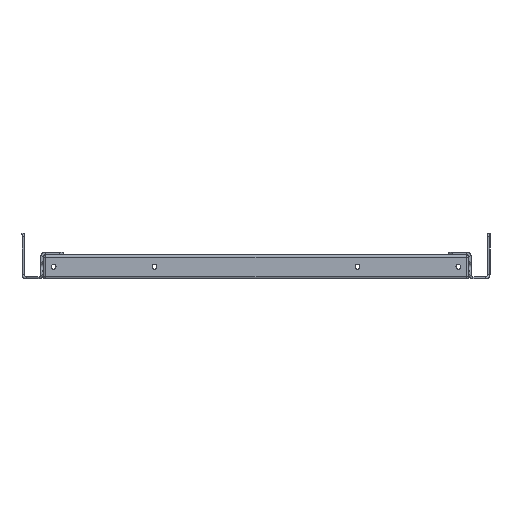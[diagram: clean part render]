
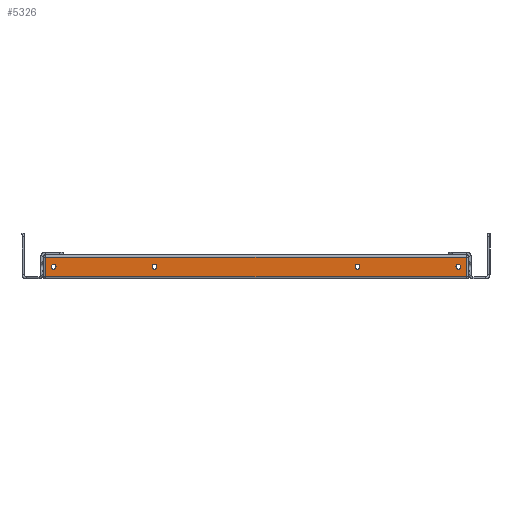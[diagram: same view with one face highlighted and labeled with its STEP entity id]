
A CAD part, left-side view. The second image highlights one B-rep face of the part: STEP entity #5326.
In plain terms, the highlighted planar face has unit normal (-1, 0, 0).
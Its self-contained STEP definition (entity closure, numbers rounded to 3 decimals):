
#32 = CARTESIAN_POINT ( 'NONE',  ( -325., 83.5, 12. ) ) ;
#388 = ORIENTED_EDGE ( 'NONE', *, *, #7493, .T. ) ;
#503 = CARTESIAN_POINT ( 'NONE',  ( -325., -83.5, 12. ) ) ;
#545 = VECTOR ( 'NONE', #5310, 1000. ) ;
#549 = CARTESIAN_POINT ( 'NONE',  ( -325., -173., 2. ) ) ;
#1082 = EDGE_CURVE ( 'NONE', #8710, #4392, #7281, .T. ) ;
#1179 = EDGE_CURVE ( 'NONE', #12559, #9796, #11524, .T. ) ;
#1225 = EDGE_LOOP ( 'NONE', ( #5460, #2819 ) ) ;
#1283 = CIRCLE ( 'NONE', #12520, 2. ) ;
#1313 = EDGE_CURVE ( 'NONE', #6440, #5962, #1283, .T. ) ;
#1610 = CARTESIAN_POINT ( 'NONE',  ( -325., -83.5, 10. ) ) ;
#1930 = ORIENTED_EDGE ( 'NONE', *, *, #10465, .F. ) ;
#1946 = AXIS2_PLACEMENT_3D ( 'NONE', #3062, #10817, #9847 ) ;
#2112 = AXIS2_PLACEMENT_3D ( 'NONE', #9159, #11129, #11215 ) ;
#2184 = CARTESIAN_POINT ( 'NONE',  ( -325., -83.5, 8. ) ) ;
#2196 = DIRECTION ( 'NONE',  ( 0., 0., 1. ) ) ;
#2254 = FACE_OUTER_BOUND ( 'NONE', #3224, .T. ) ;
#2264 = CARTESIAN_POINT ( 'NONE',  ( -325., 166.5, 12. ) ) ;
#2304 = EDGE_CURVE ( 'NONE', #4169, #5003, #4020, .T. ) ;
#2417 = FACE_BOUND ( 'NONE', #9673, .T. ) ;
#2515 = CIRCLE ( 'NONE', #1946, 2. ) ;
#2563 = PLANE ( 'NONE',  #5521 ) ;
#2819 = ORIENTED_EDGE ( 'NONE', *, *, #3282, .T. ) ;
#2844 = AXIS2_PLACEMENT_3D ( 'NONE', #9122, #12002, #6165 ) ;
#2892 = DIRECTION ( 'NONE',  ( 0., 0., 1. ) ) ;
#3062 = CARTESIAN_POINT ( 'NONE',  ( -325., 83.5, 10. ) ) ;
#3224 = EDGE_LOOP ( 'NONE', ( #10757, #388, #7754, #11029 ) ) ;
#3282 = EDGE_CURVE ( 'NONE', #4392, #8710, #7827, .T. ) ;
#3372 = DIRECTION ( 'NONE',  ( 1., 0., 0. ) ) ;
#3506 = DIRECTION ( 'NONE',  ( 0., 0., -1. ) ) ;
#3715 = DIRECTION ( 'NONE',  ( 0., 0., -1. ) ) ;
#4020 = CIRCLE ( 'NONE', #7459, 2. ) ;
#4169 = VERTEX_POINT ( 'NONE', #2184 ) ;
#4190 = DIRECTION ( 'NONE',  ( -1., 0., 0. ) ) ;
#4392 = VERTEX_POINT ( 'NONE', #5068 ) ;
#4548 = DIRECTION ( 'NONE',  ( 0., 0., 1. ) ) ;
#4556 = VERTEX_POINT ( 'NONE', #32 ) ;
#4672 = CARTESIAN_POINT ( 'NONE',  ( -325., 173., 20. ) ) ;
#4698 = DIRECTION ( 'NONE',  ( 0., 0., 1. ) ) ;
#4810 = CARTESIAN_POINT ( 'NONE',  ( -325., -166.5, 12. ) ) ;
#4849 = CARTESIAN_POINT ( 'NONE',  ( -325., -173., 18. ) ) ;
#5003 = VERTEX_POINT ( 'NONE', #503 ) ;
#5068 = CARTESIAN_POINT ( 'NONE',  ( -325., -166.5, 8. ) ) ;
#5120 = ORIENTED_EDGE ( 'NONE', *, *, #11238, .F. ) ;
#5259 = VECTOR ( 'NONE', #8695, 1000. ) ;
#5310 = DIRECTION ( 'NONE',  ( 0., -1., 0. ) ) ;
#5326 = ADVANCED_FACE ( 'NONE', ( #7792, #5488, #2254, #9783, #2417 ), #2563, .F. ) ;
#5386 = ORIENTED_EDGE ( 'NONE', *, *, #11491, .T. ) ;
#5460 = ORIENTED_EDGE ( 'NONE', *, *, #1082, .T. ) ;
#5488 = FACE_BOUND ( 'NONE', #7618, .T. ) ;
#5521 = AXIS2_PLACEMENT_3D ( 'NONE', #10495, #6437, #3506 ) ;
#5582 = VECTOR ( 'NONE', #4548, 1000. ) ;
#5605 = ORIENTED_EDGE ( 'NONE', *, *, #2304, .T. ) ;
#5962 = VERTEX_POINT ( 'NONE', #2264 ) ;
#6005 = ORIENTED_EDGE ( 'NONE', *, *, #1313, .F. ) ;
#6165 = DIRECTION ( 'NONE',  ( 0., 0., 1. ) ) ;
#6417 = CARTESIAN_POINT ( 'NONE',  ( -325., 166.5, 8. ) ) ;
#6437 = DIRECTION ( 'NONE',  ( 1., 0., 0. ) ) ;
#6440 = VERTEX_POINT ( 'NONE', #6417 ) ;
#6553 = CARTESIAN_POINT ( 'NONE',  ( -325., 175., 18. ) ) ;
#6992 = LINE ( 'NONE', #10108, #545 ) ;
#7062 = CARTESIAN_POINT ( 'NONE',  ( -325., -83.5, 10. ) ) ;
#7281 = CIRCLE ( 'NONE', #7948, 2. ) ;
#7387 = AXIS2_PLACEMENT_3D ( 'NONE', #1610, #11550, #4698 ) ;
#7406 = LINE ( 'NONE', #4672, #11045 ) ;
#7459 = AXIS2_PLACEMENT_3D ( 'NONE', #7062, #8048, #2196 ) ;
#7492 = EDGE_CURVE ( 'NONE', #8681, #7765, #7406, .T. ) ;
#7493 = EDGE_CURVE ( 'NONE', #9796, #8681, #7861, .T. ) ;
#7546 = CARTESIAN_POINT ( 'NONE',  ( -325., 83.5, 8. ) ) ;
#7590 = CARTESIAN_POINT ( 'NONE',  ( -325., 166.5, 10. ) ) ;
#7618 = EDGE_LOOP ( 'NONE', ( #1930, #6005 ) ) ;
#7754 = ORIENTED_EDGE ( 'NONE', *, *, #7492, .T. ) ;
#7765 = VERTEX_POINT ( 'NONE', #12706 ) ;
#7792 = FACE_BOUND ( 'NONE', #12352, .T. ) ;
#7827 = CIRCLE ( 'NONE', #2844, 2. ) ;
#7861 = LINE ( 'NONE', #6553, #5259 ) ;
#7948 = AXIS2_PLACEMENT_3D ( 'NONE', #8272, #3372, #10290 ) ;
#8048 = DIRECTION ( 'NONE',  ( 1., 0., 0. ) ) ;
#8089 = CIRCLE ( 'NONE', #8355, 2. ) ;
#8272 = CARTESIAN_POINT ( 'NONE',  ( -325., -166.5, 10. ) ) ;
#8355 = AXIS2_PLACEMENT_3D ( 'NONE', #9973, #4190, #10932 ) ;
#8681 = VERTEX_POINT ( 'NONE', #12673 ) ;
#8695 = DIRECTION ( 'NONE',  ( 0., 1., 0. ) ) ;
#8710 = VERTEX_POINT ( 'NONE', #4810 ) ;
#9091 = VERTEX_POINT ( 'NONE', #7546 ) ;
#9122 = CARTESIAN_POINT ( 'NONE',  ( -325., -166.5, 10. ) ) ;
#9159 = CARTESIAN_POINT ( 'NONE',  ( -325., 83.5, 10. ) ) ;
#9434 = CARTESIAN_POINT ( 'NONE',  ( -325., -173., 20. ) ) ;
#9673 = EDGE_LOOP ( 'NONE', ( #5386, #5605 ) ) ;
#9783 = FACE_BOUND ( 'NONE', #1225, .T. ) ;
#9796 = VERTEX_POINT ( 'NONE', #4849 ) ;
#9847 = DIRECTION ( 'NONE',  ( 0., 0., 1. ) ) ;
#9973 = CARTESIAN_POINT ( 'NONE',  ( -325., 166.5, 10. ) ) ;
#10108 = CARTESIAN_POINT ( 'NONE',  ( -325., -175., 2. ) ) ;
#10132 = ORIENTED_EDGE ( 'NONE', *, *, #11899, .F. ) ;
#10197 = CIRCLE ( 'NONE', #2112, 2. ) ;
#10290 = DIRECTION ( 'NONE',  ( 0., 0., 1. ) ) ;
#10465 = EDGE_CURVE ( 'NONE', #5962, #6440, #8089, .T. ) ;
#10495 = CARTESIAN_POINT ( 'NONE',  ( -325., -175., 20. ) ) ;
#10757 = ORIENTED_EDGE ( 'NONE', *, *, #1179, .T. ) ;
#10817 = DIRECTION ( 'NONE',  ( -1., 0., 0. ) ) ;
#10932 = DIRECTION ( 'NONE',  ( 0., 0., 1. ) ) ;
#11029 = ORIENTED_EDGE ( 'NONE', *, *, #11367, .T. ) ;
#11045 = VECTOR ( 'NONE', #3715, 1000. ) ;
#11129 = DIRECTION ( 'NONE',  ( -1., 0., 0. ) ) ;
#11215 = DIRECTION ( 'NONE',  ( 0., 0., 1. ) ) ;
#11238 = EDGE_CURVE ( 'NONE', #9091, #4556, #2515, .T. ) ;
#11245 = CIRCLE ( 'NONE', #7387, 2. ) ;
#11367 = EDGE_CURVE ( 'NONE', #7765, #12559, #6992, .T. ) ;
#11491 = EDGE_CURVE ( 'NONE', #5003, #4169, #11245, .T. ) ;
#11524 = LINE ( 'NONE', #9434, #5582 ) ;
#11550 = DIRECTION ( 'NONE',  ( 1., 0., 0. ) ) ;
#11899 = EDGE_CURVE ( 'NONE', #4556, #9091, #10197, .T. ) ;
#12002 = DIRECTION ( 'NONE',  ( 1., 0., 0. ) ) ;
#12352 = EDGE_LOOP ( 'NONE', ( #10132, #5120 ) ) ;
#12520 = AXIS2_PLACEMENT_3D ( 'NONE', #7590, #12712, #2892 ) ;
#12559 = VERTEX_POINT ( 'NONE', #549 ) ;
#12673 = CARTESIAN_POINT ( 'NONE',  ( -325., 173., 18. ) ) ;
#12706 = CARTESIAN_POINT ( 'NONE',  ( -325., 173., 2. ) ) ;
#12712 = DIRECTION ( 'NONE',  ( -1., 0., 0. ) ) ;
